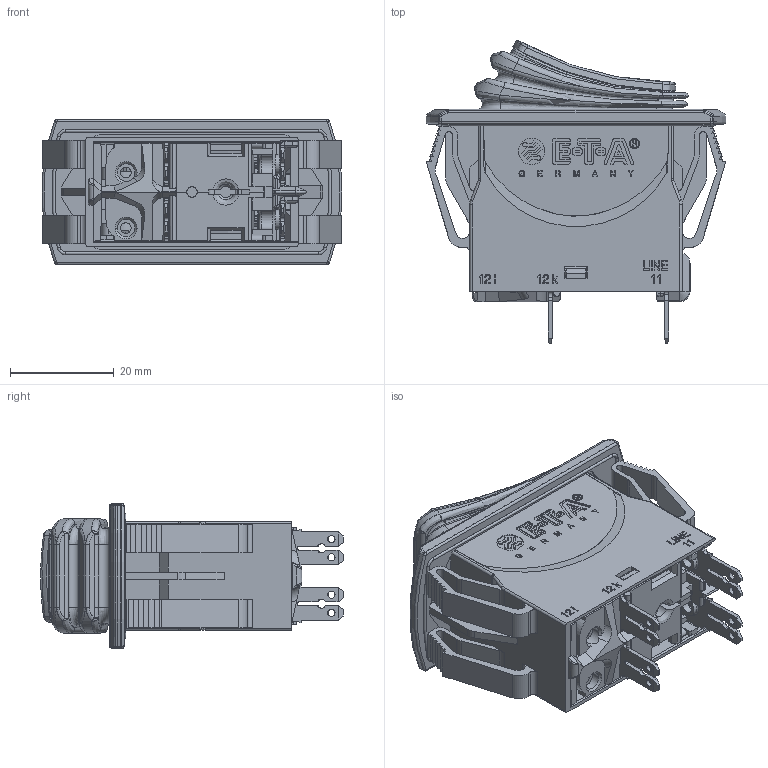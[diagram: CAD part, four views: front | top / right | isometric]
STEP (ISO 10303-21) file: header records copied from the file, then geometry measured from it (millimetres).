
FILE_DESCRIPTION((''),'2;1');
FILE_NAME('DUMMY-3120-N324-P7T1','2019-08-07T13:38:12',('wschmidt'),(''),'CREO PARAMETRIC BY PTC INC, 2017260','CREO PARAMETRIC BY PTC INC, 2017260','');
FILE_SCHEMA(('AUTOMOTIVE_DESIGN { 1 0 10303 214 1 1 1 1 }'));
Products named in the file (1): DUMMY-3120-N324-P7T1
Bounding box: 57.8 x 58.37 x 28 mm (x, y, z)
Volume: 13967.5 mm3; surface area: 28380.8 mm2
Topology: 1 solids, 1 shells, 3569 faces, 9839 edges, 6355 vertices
Faces by surface type: plane 2256, cylinder 601, extrusion 306, bspline 213, torus 103, sphere 48, cone 42
Entity records: 166656 total; most frequent: CARTESIAN_POINT 61313, ORIENTED_EDGE 19660, DIRECTION 15799, EDGE_CURVE 9830, VECTOR 7365, LINE 7059, VERTEX_POINT 6355, AXIS2_PLACEMENT_3D 4217
